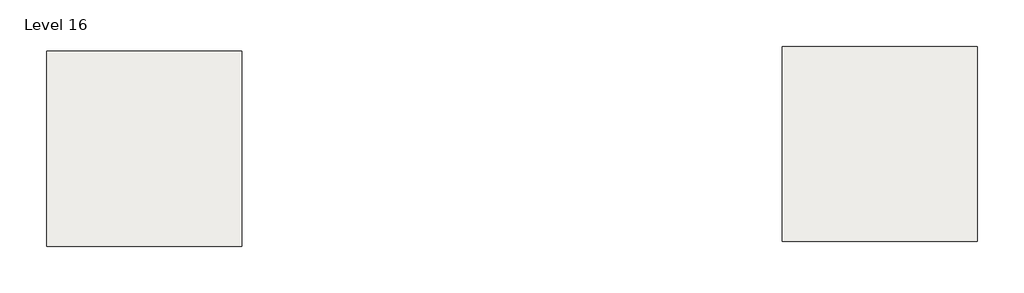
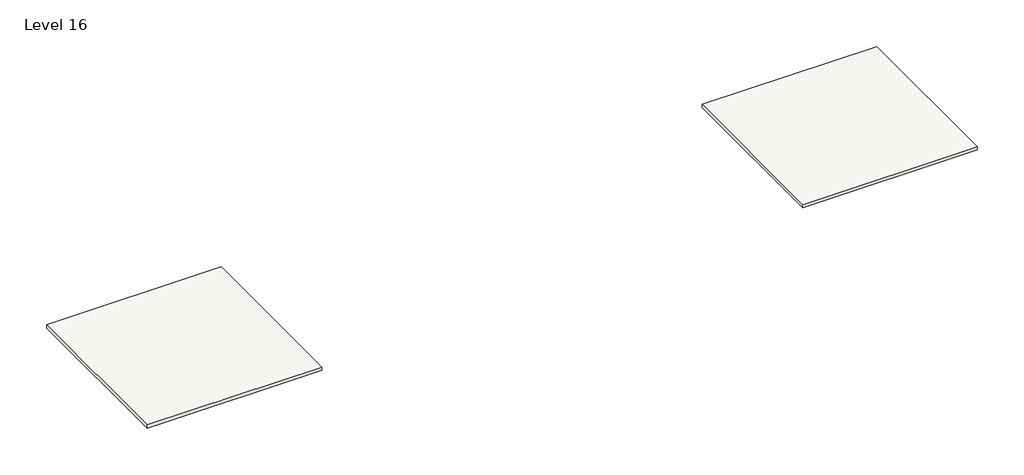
# One storey: 2 slabs.
"""IFC4 building model written with IfcOpenShell, lengths in millimetres."""

from ifc_helpers import new_model, si_unit, frame, origin, place, context, project, spatial, polyline, outline, extrude, element, save

model = new_model("IFC4")

# Units and contexts
model_context = context("Model", 3, world=origin())
ifc_project = project(units=[si_unit("LENGTHUNIT", "METRE", prefix="MILLI")], contexts=[model_context])

# Site, building, storey
site = spatial("IfcSite", under=ifc_project)
building = spatial("IfcBuilding", under=site)
storey = spatial("IfcBuildingStorey", under=building, Name="Level 16", Elevation=45720.0)

# Slabs
placement = place(None, origin())
element("IfcSlab", 1, ObjectType="Generic - 12\"", at=placement, inside=storey, context=model_context, shape_type="SweptSolid", body=[
    extrude(outline(polyline([(-5599.4161695, 9497.9495511), (-5599.4161695, -5742.0504489), (-20839.4161695, -5742.0504489), (-20839.4161695, 9497.9495511), (-5599.4161695, 9497.9495511)])), frame((0.0, 0.0, 45415.2), z_axis=(0.0, 0.0, 1.0), x_axis=(1.0, 0.0, 0.0)), (0.0, 0.0, 1.0), 304.8),
])
element("IfcSlab", 2, ObjectType="Generic - 12\"", at=placement, inside=storey, context=model_context, shape_type="SweptSolid", body=[
    extrude(outline(polyline([(51834.2903978, 9875.0904402), (51834.2903978, -5364.9095598), (36594.2903978, -5364.9095598), (36594.2903978, 9875.0904402), (51834.2903978, 9875.0904402)])), frame((0.0, 0.0, 45415.2), z_axis=(0.0, 0.0, 1.0), x_axis=(1.0, 0.0, 0.0)), (0.0, 0.0, 1.0), 304.8),
])

save(model, "model.ifc")
